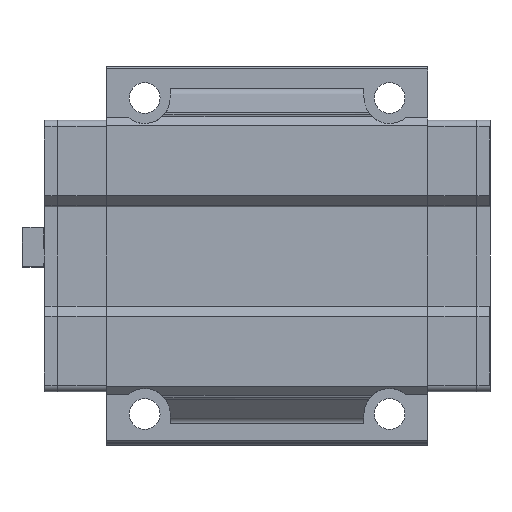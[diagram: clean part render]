
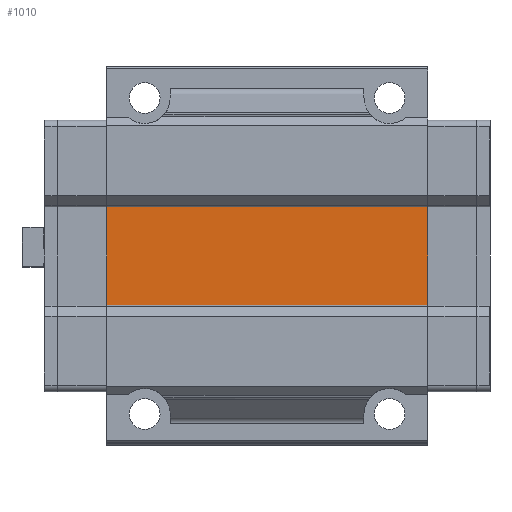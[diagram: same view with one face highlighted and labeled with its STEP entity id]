
A CAD part, front view. The second image highlights one B-rep face of the part: STEP entity #1010.
In plain terms, the highlighted planar face has unit normal (0, -1, 0).
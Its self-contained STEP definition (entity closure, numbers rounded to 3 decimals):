
#210 = EDGE_CURVE ( 'NONE', #1638, #5901, #2310, .T. ) ;
#219 = CARTESIAN_POINT ( 'NONE',  ( -72.1, 0., -23. ) ) ;
#252 = EDGE_CURVE ( 'NONE', #7514, #10784, #586, .T. ) ;
#483 = DIRECTION ( 'NONE',  ( 0., 0., 1. ) ) ;
#586 = LINE ( 'NONE', #11858, #2996 ) ;
#800 = ORIENTED_EDGE ( 'NONE', *, *, #252, .F. ) ;
#1010 = ADVANCED_FACE ( 'NONE', ( #2393 ), #1298, .F. ) ;
#1298 = PLANE ( 'NONE',  #4362 ) ;
#1638 = VERTEX_POINT ( 'NONE', #219 ) ;
#2029 = EDGE_CURVE ( 'NONE', #5901, #7514, #7631, .T. ) ;
#2042 = DIRECTION ( 'NONE',  ( 1., 0., 0. ) ) ;
#2275 = DIRECTION ( 'NONE',  ( 0., 0., 1. ) ) ;
#2310 = LINE ( 'NONE', #5139, #10482 ) ;
#2393 = FACE_OUTER_BOUND ( 'NONE', #8609, .T. ) ;
#2766 = DIRECTION ( 'NONE',  ( 1., 0., 0. ) ) ;
#2996 = VECTOR ( 'NONE', #6238, 1000. ) ;
#4362 = AXIS2_PLACEMENT_3D ( 'NONE', #10892, #11882, #2275 ) ;
#4476 = ORIENTED_EDGE ( 'NONE', *, *, #8637, .T. ) ;
#5072 = CARTESIAN_POINT ( 'NONE',  ( 72.1, 0., -23. ) ) ;
#5139 = CARTESIAN_POINT ( 'NONE',  ( -72.1, 0., -11.5 ) ) ;
#5901 = VERTEX_POINT ( 'NONE', #6901 ) ;
#6238 = DIRECTION ( 'NONE',  ( 0., 0., -1. ) ) ;
#6901 = CARTESIAN_POINT ( 'NONE',  ( -72.1, 0., 23. ) ) ;
#7130 = CARTESIAN_POINT ( 'NONE',  ( 72.1, 0., 23. ) ) ;
#7514 = VERTEX_POINT ( 'NONE', #7130 ) ;
#7631 = LINE ( 'NONE', #8806, #10907 ) ;
#8609 = EDGE_LOOP ( 'NONE', ( #800, #11264, #10196, #4476 ) ) ;
#8637 = EDGE_CURVE ( 'NONE', #1638, #10784, #11267, .T. ) ;
#8708 = VECTOR ( 'NONE', #2766, 1000. ) ;
#8806 = CARTESIAN_POINT ( 'NONE',  ( -100., 0., 23. ) ) ;
#10196 = ORIENTED_EDGE ( 'NONE', *, *, #210, .F. ) ;
#10482 = VECTOR ( 'NONE', #483, 1000. ) ;
#10784 = VERTEX_POINT ( 'NONE', #5072 ) ;
#10892 = CARTESIAN_POINT ( 'NONE',  ( -100., 0., -23. ) ) ;
#10907 = VECTOR ( 'NONE', #2042, 1000. ) ;
#11264 = ORIENTED_EDGE ( 'NONE', *, *, #2029, .F. ) ;
#11267 = LINE ( 'NONE', #11330, #8708 ) ;
#11330 = CARTESIAN_POINT ( 'NONE',  ( -100., 0., -23. ) ) ;
#11858 = CARTESIAN_POINT ( 'NONE',  ( 72.1, 0., -11.5 ) ) ;
#11882 = DIRECTION ( 'NONE',  ( 0., 1., 0. ) ) ;
